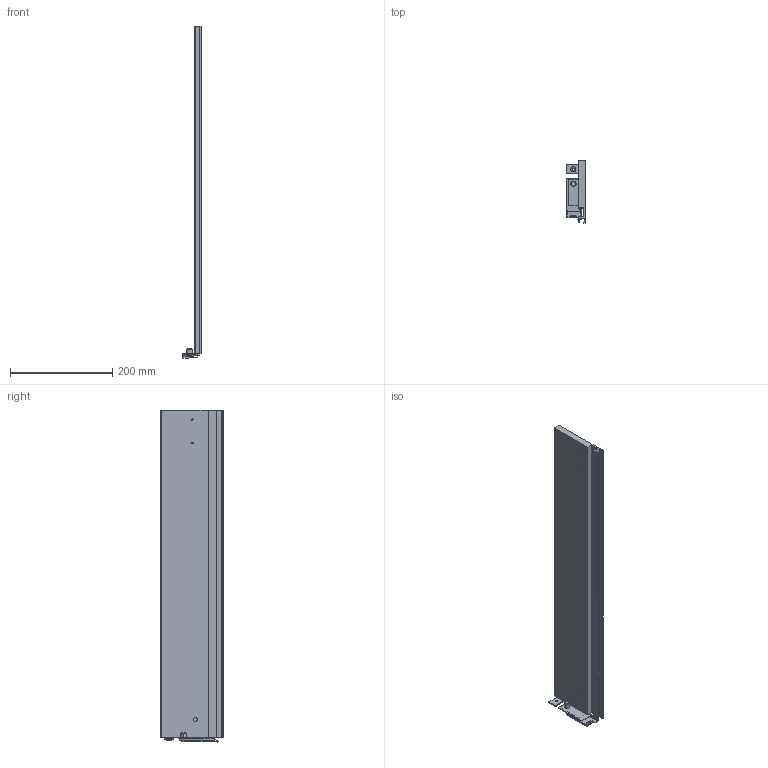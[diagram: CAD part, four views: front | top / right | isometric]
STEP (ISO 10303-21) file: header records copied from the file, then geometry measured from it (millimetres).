
FILE_DESCRIPTION (( 'STEP AP214' ), '1' );
FILE_NAME ('Vionaro_Alu-Zarge_H121_NL650_RE.STEP', '2014-08-18T11:22:44', ( '' ), ( '' ), 'SwSTEP 2.0', 'SolidWorks 2013', '' );
FILE_SCHEMA (( 'AUTOMOTIVE_DESIGN' ));
Length unit declared in the file: millimetre
Products named in the file (1): Vionaro_Alu-Zarge_H121_NL650_RE
Bounding box: 35.61 x 121 x 647.9 mm (x, y, z)
Volume: 846617.5 mm3; surface area: 206746.2 mm2
Topology: 1 solids, 1 shells, 112 faces, 299 edges, 196 vertices
Faces by surface type: plane 88, cylinder 20, cone 4
Entity records: 3491 total; most frequent: CARTESIAN_POINT 614, ORIENTED_EDGE 598, DIRECTION 569, EDGE_CURVE 299, LINE 251, VECTOR 251, VERTEX_POINT 196, AXIS2_PLACEMENT_3D 159
